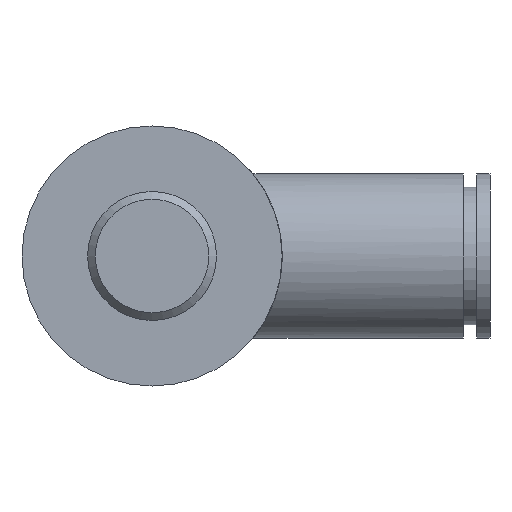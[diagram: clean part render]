
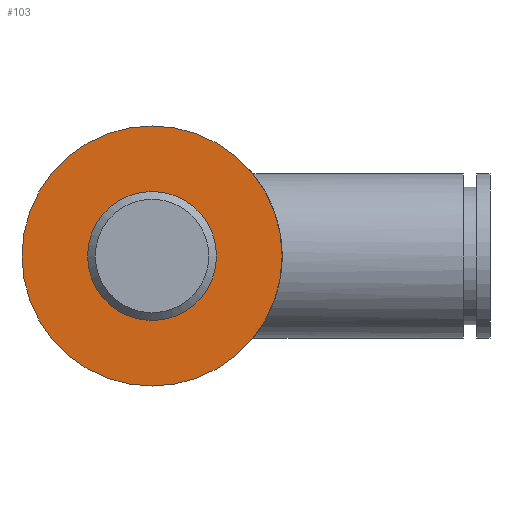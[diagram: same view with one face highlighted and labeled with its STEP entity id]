
A CAD part, front view. The second image highlights one B-rep face of the part: STEP entity #103.
In plain terms, the highlighted planar face has unit normal (0, -1, 0).
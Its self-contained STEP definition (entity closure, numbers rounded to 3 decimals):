
#103=ADVANCED_FACE('',(#177,#178),#179,.F.);
#177=FACE_OUTER_BOUND('',#262,.T.);
#178=FACE_BOUND('',#263,.T.);
#179=PLANE('',#264);
#262=EDGE_LOOP('',(#457));
#263=EDGE_LOOP('',(#458));
#264=AXIS2_PLACEMENT_3D('',#459,#460,#461);
#457=ORIENTED_EDGE('',*,*,#553,.T.);
#458=ORIENTED_EDGE('',*,*,#554,.F.);
#459=CARTESIAN_POINT('',(9.815,0.,0.0));
#460=DIRECTION('',(-0.0,1.0,0.0));
#461=DIRECTION('',(1.0,0.0,0.0));
#553=EDGE_CURVE('',#646,#646,#647,.T.);
#554=EDGE_CURVE('',#648,#648,#649,.T.);
#646=VERTEX_POINT('',#842);
#647=CIRCLE('',#843,9.815);
#648=VERTEX_POINT('',#844);
#649=CIRCLE('',#845,4.864);
#842=CARTESIAN_POINT('',(0.0,0.0,-9.815));
#843=AXIS2_PLACEMENT_3D('',#924,#925,#926);
#844=CARTESIAN_POINT('',(0.0,0.,-4.864));
#845=AXIS2_PLACEMENT_3D('',#927,#928,#929);
#924=CARTESIAN_POINT('',(0.0,0.0,0.0));
#925=DIRECTION('',(0.0,-1.0,0.0));
#926=DIRECTION('',(0.0,0.0,-1.0));
#927=CARTESIAN_POINT('',(0.0,0.,0.0));
#928=DIRECTION('',(0.0,-1.0,0.0));
#929=DIRECTION('',(0.0,0.0,-1.0));
